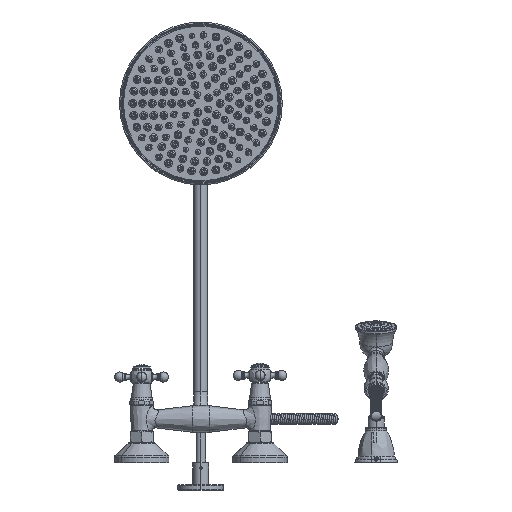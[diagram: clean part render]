
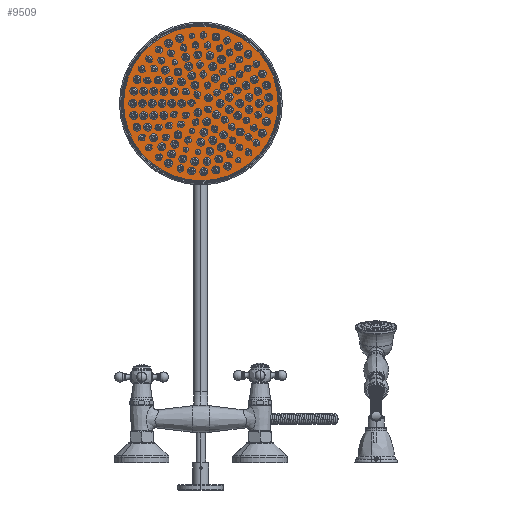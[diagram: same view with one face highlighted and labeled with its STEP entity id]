
A CAD part, front view. The second image highlights one B-rep face of the part: STEP entity #9509.
In plain terms, the highlighted planar face has unit normal (0, -1, 0).
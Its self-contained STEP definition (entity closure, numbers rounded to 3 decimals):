
#5156=CARTESIAN_POINT('',(0.,1062.4,400.));
#5157=DIRECTION('',(0.,1.,0.));
#5158=DIRECTION('',(1.,0.,0.));
#5159=AXIS2_PLACEMENT_3D('',#5156,#5157,#5158);
#5166=CARTESIAN_POINT('',(0.,1062.4,400.));
#5167=DIRECTION('',(0.,-1.,0.));
#5168=DIRECTION('',(1.,0.,0.));
#5169=AXIS2_PLACEMENT_3D('',#5166,#5167,#5168);
#8403=CARTESIAN_POINT('',(98.,1062.4,400.));
#8405=VERTEX_POINT('',#8403);
#8407=CARTESIAN_POINT('',(-98.,1062.4,400.));
#8409=VERTEX_POINT('',#8407);
#9499=CARTESIAN_POINT('',(0.,1062.4,400.));
#9500=DIRECTION('',(0.,1.,0.));
#9501=DIRECTION('',(1.,0.,0.));
#9502=AXIS2_PLACEMENT_3D('',#9499,#9500,#9501);
#9503=PLANE('',#9502);
#9505=ORIENTED_EDGE('',*,*,#9504,.F.);
#9506=ORIENTED_EDGE('',*,*,#9494,.T.);
#9507=EDGE_LOOP('',(#9505,#9506));
#9508=FACE_OUTER_BOUND('',#9507,.F.);
#9509=ADVANCED_FACE('',(#9508),#9503,.F.);
#5160=CIRCLE('',#5159,98.);
#5170=CIRCLE('',#5169,98.);
#9494=EDGE_CURVE('',#8405,#8409,#5160,.T.);
#9504=EDGE_CURVE('',#8405,#8409,#5170,.T.);
